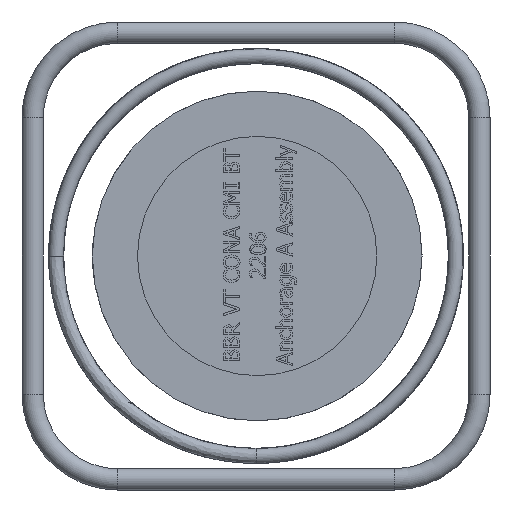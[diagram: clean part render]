
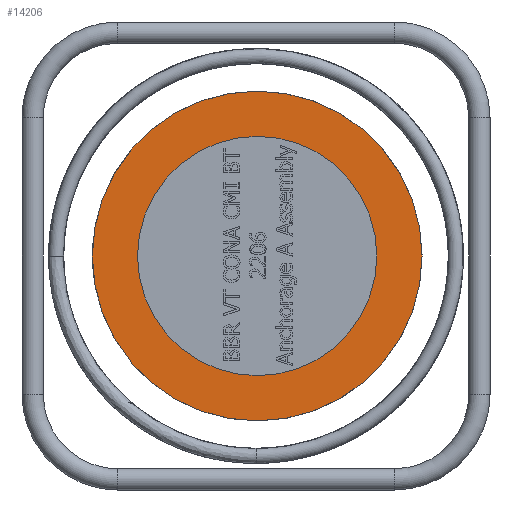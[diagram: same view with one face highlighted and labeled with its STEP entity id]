
A CAD part, left-side view. The second image highlights one B-rep face of the part: STEP entity #14206.
In plain terms, the highlighted planar face has unit normal (-1, 0, 0).
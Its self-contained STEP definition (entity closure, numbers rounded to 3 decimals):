
#3432=PLANE('',#14739);
#3576=FACE_BOUND('',#5190,.T.);
#4321=FACE_OUTER_BOUND('',#5189,.T.);
#5189=EDGE_LOOP('',(#12193));
#5190=EDGE_LOOP('',(#12194));
#5515=CIRCLE('',#14740,155.);
#5516=CIRCLE('',#14741,112.5);
#6796=VERTEX_POINT('',#24698);
#6797=VERTEX_POINT('',#24700);
#8647=EDGE_CURVE('',#6796,#6796,#5515,.T.);
#8648=EDGE_CURVE('',#6797,#6797,#5516,.T.);
#12193=ORIENTED_EDGE('',*,*,#8647,.T.);
#12194=ORIENTED_EDGE('',*,*,#8648,.F.);
#14206=ADVANCED_FACE('',(#4321,#3576),#3432,.T.);
#14739=AXIS2_PLACEMENT_3D('',#24697,#16808,#16809);
#14740=AXIS2_PLACEMENT_3D('',#24699,#16810,#16811);
#14741=AXIS2_PLACEMENT_3D('',#24701,#16812,#16813);
#16808=DIRECTION('center_axis',(-1.,0.,0.));
#16809=DIRECTION('ref_axis',(0.,1.,0.));
#16810=DIRECTION('center_axis',(-1.,0.,0.));
#16811=DIRECTION('ref_axis',(0.,0.,
1.));
#16812=DIRECTION('center_axis',(-1.,0.,0.));
#16813=DIRECTION('ref_axis',(0.,-1.,0.));
#24697=CARTESIAN_POINT('Origin',(-177.129,-1.123,123.5));
#24698=CARTESIAN_POINT('',(-177.129,-1.123,155.));
#24699=CARTESIAN_POINT('Origin',(-177.129,-1.123,0.));
#24700=CARTESIAN_POINT('',(-177.129,-1.123,-112.5));
#24701=CARTESIAN_POINT('Origin',(-177.129,-1.123,0.));
